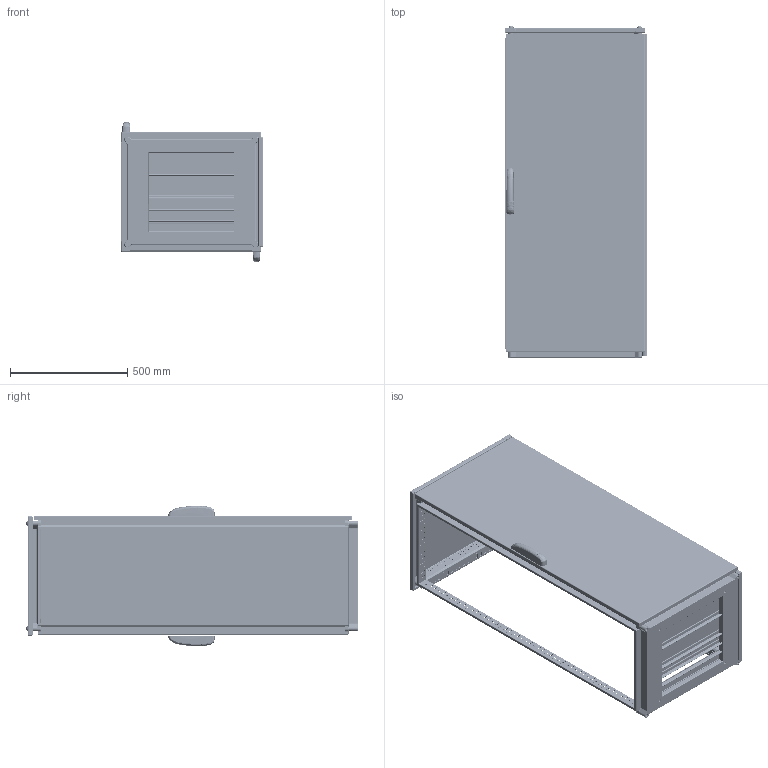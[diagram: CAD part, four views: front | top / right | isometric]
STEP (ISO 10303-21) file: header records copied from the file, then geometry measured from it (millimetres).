
FILE_DESCRIPTION (( 'STEP AP203' ), '1' );
FILE_NAME ('ENUX061405DP.STEP', '2025-05-29T11:32:27', ( '' ), ( '' ), 'SwSTEP 2.0', 'SolidWorks 2022', '' );
FILE_SCHEMA (( 'CONFIG_CONTROL_DESIGN' ));
Products named in the file (13): AR_ENUX_Fianco_0500x1400_SX; AR_ENUX_Tegolino_0600x0050; AR_ENUX_montaggio_porta_singlola_2.0_0600x1400_POST_DX; AR_ENUX_Tegolino_0600x0100; AR_ENUX_Fianco_0500x1400_DX; AR_ENUX_montaggio_porta_singlola_2.0_0600x1400_ANT_DX; AR_ENUX_Tetto_0600x0500; AR_ENUX_Porta_singola_2.0_0600x1400_POST; AR_ENUX_Struttura_0600x1400x0500; AR_ENUX_nuova_maniglia_mesan; AR_ENUX_Vite_tetto; ENUX061405DP; AR_ENUX_Porta_singola_2.0_0600x1400_ANT
Assembly tree (18 placements, depth 3):
  ENUX061405DP
    AR_ENUX_Struttura_0600x1400x0500
    AR_ENUX_montaggio_porta_singlola_2.0_0600x1400_ANT_DX
      AR_ENUX_Porta_singola_2.0_0600x1400_ANT
      AR_ENUX_nuova_maniglia_mesan
    AR_ENUX_montaggio_porta_singlola_2.0_0600x1400_POST_DX
      AR_ENUX_Porta_singola_2.0_0600x1400_POST
      AR_ENUX_nuova_maniglia_mesan
    AR_ENUX_Fianco_0500x1400_SX
    AR_ENUX_Fianco_0500x1400_DX
    AR_ENUX_Tetto_0600x0500
    AR_ENUX_Vite_tetto  x4
    AR_ENUX_Tegolino_0600x0100  x2
    AR_ENUX_Tegolino_0600x0050  x2
Bounding box: 606 x 1415.1 x 600 mm (x, y, z)
Volume: 6458158.9 mm3; surface area: 8545903 mm2
Topology: 14 solids, 14 shells, 6551 faces, 18328 edges, 11740 vertices
Faces by surface type: plane 3482, cylinder 2358, bspline 390, torus 189, cone 88, sphere 44
Entity records: 274031 total; most frequent: CARTESIAN_POINT 81311, ORIENTED_EDGE 39914, DIRECTION 38212, EDGE_CURVE 19957, VECTOR 13228, LINE 13228, VERTEX_POINT 12920, AXIS2_PLACEMENT_3D 12492
